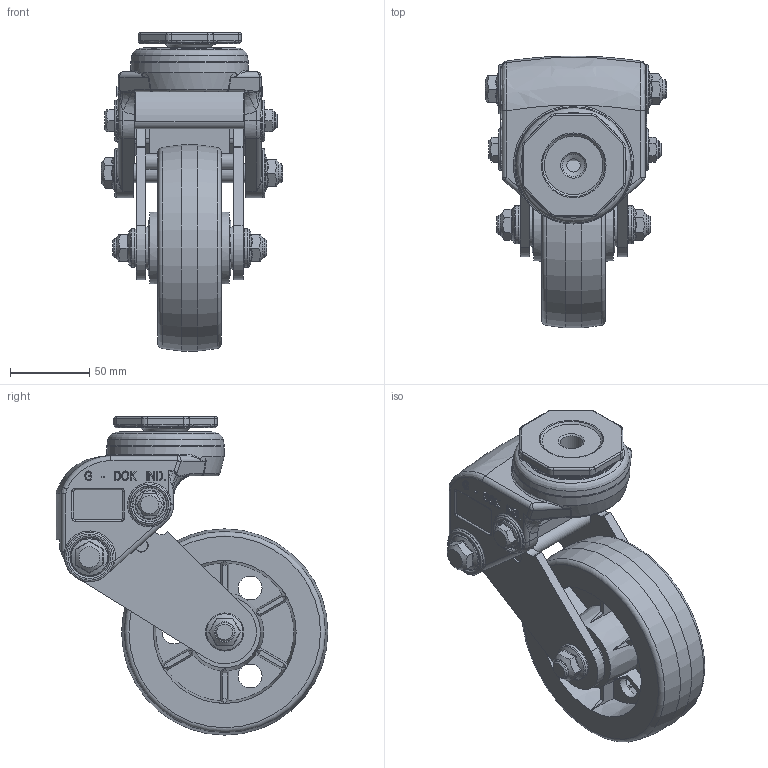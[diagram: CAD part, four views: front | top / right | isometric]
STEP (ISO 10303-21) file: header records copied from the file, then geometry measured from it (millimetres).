
FILE_DESCRIPTION((''),'2;1');
FILE_NAME('C:\Documents and Settings\Administrator\바탕 화면\3D STEP\GDS-SERIES\GDS-130\GDS-130A-RS.stp','2010-12-27T15:34:11',('Administrator'),(''),'Autodesk Inventor 2009','Autodesk Inventor 2009','');
FILE_SCHEMA(('AUTOMOTIVE_DESIGN { 1 0 10303 214 1 1 1 1 }'));
Length unit declared in the file: millimetre
Products named in the file (1): GDS-130A-SS
Bounding box: 114.5 x 171.28 x 200.6 mm (x, y, z)
Volume: 800838.9 mm3; surface area: 190473 mm2
Topology: 10 solids, 10 shells, 2226 faces, 6147 edges, 4015 vertices
Faces by surface type: plane 1598, bspline 288, cylinder 166, cone 99, torus 71, sphere 4
Full cylindrical faces by diameter (mm): 7.8 x2, 8.2 x2, 8.5 x1, 10 x4, 12 x6, 12.2 x4, 13.4 x2, 14.21 x1, 15 x7, 18 x1, 18.6 x2, 18.9 x1, 20 x1, 21.667 x4, 24 x4, 26 x2, 27 x4, 28.333 x4, 30 x2, 30.6 x1, 31 x2, 35 x2, 35.02 x2, 39 x1, 41.54 x1, 42.34 x1, 74 x1, 130 x1
Entity records: 79670 total; most frequent: CARTESIAN_POINT 25780, ORIENTED_EDGE 11808, DIRECTION 9844, EDGE_CURVE 5904, VECTOR 4342, LINE 4342, VERTEX_POINT 3960, AXIS2_PLACEMENT_3D 2751
